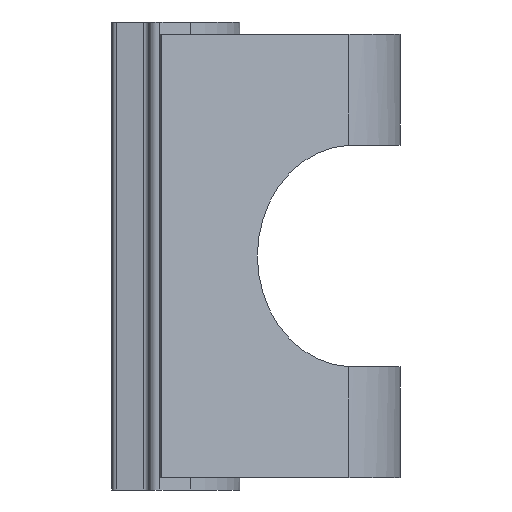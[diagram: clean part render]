
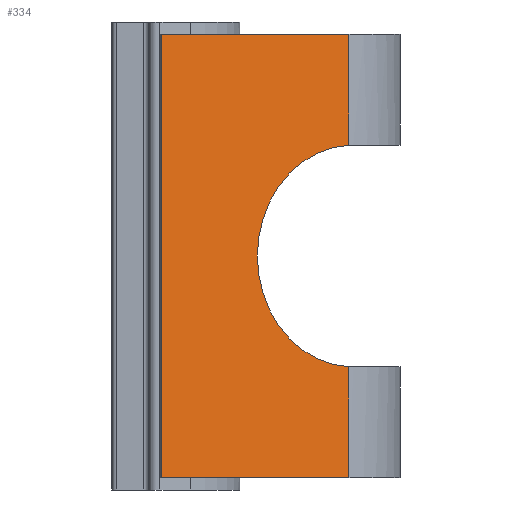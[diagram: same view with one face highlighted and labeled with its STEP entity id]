
A CAD part, left-side view. The second image highlights one B-rep face of the part: STEP entity #334.
In plain terms, the highlighted planar face has unit normal (-0.866, -0.5, 0).
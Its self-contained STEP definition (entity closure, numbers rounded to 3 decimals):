
#2 = DIRECTION ( 'NONE',  ( 0.866, 0.5, 0. ) ) ;
#24 = VERTEX_POINT ( 'NONE', #1583 ) ;
#61 = LINE ( 'NONE', #1104, #1341 ) ;
#90 = EDGE_CURVE ( 'NONE', #172, #1094, #61, .T. ) ;
#113 = EDGE_CURVE ( 'NONE', #1563, #172, #682, .T. ) ;
#146 = CARTESIAN_POINT ( 'NONE',  ( -2.682, -9.625, 18.5 ) ) ;
#155 = CARTESIAN_POINT ( 'NONE',  ( -7.085, -2., 18.5 ) ) ;
#172 = VERTEX_POINT ( 'NONE', #1116 ) ;
#228 = ORIENTED_EDGE ( 'NONE', *, *, #751, .T. ) ;
#244 = VECTOR ( 'NONE', #856, 1000. ) ;
#275 = DIRECTION ( 'NONE',  ( 0.5, -0.866, 0. ) ) ;
#277 = DIRECTION ( 'NONE',  ( -0.5, 0.866, 0. ) ) ;
#317 = AXIS2_PLACEMENT_3D ( 'NONE', #784, #2, #471 ) ;
#334 = ADVANCED_FACE ( 'NONE', ( #1436 ), #940, .T. ) ;
#345 = CARTESIAN_POINT ( 'NONE',  ( -7.085, -2., 18.5 ) ) ;
#352 = CARTESIAN_POINT ( 'NONE',  ( -2.682, -9.625, 5.005 ) ) ;
#381 = EDGE_CURVE ( 'NONE', #1094, #24, #686, .T. ) ;
#383 = CARTESIAN_POINT ( 'NONE',  ( -4.829, -5.906, 9.5 ) ) ;
#386 = EDGE_CURVE ( 'NONE', #24, #388, #1491, .T. ) ;
#388 = VERTEX_POINT ( 'NONE', #1596 ) ;
#393 = LINE ( 'NONE', #146, #512 ) ;
#417 = DIRECTION ( 'NONE',  ( 0., 0., 1. ) ) ;
#422 = AXIS2_PLACEMENT_3D ( 'NONE', #155, #573, #1056 ) ;
#435 = CARTESIAN_POINT ( 'NONE',  ( -7.085, -2., 18.5 ) ) ;
#466 = VECTOR ( 'NONE', #275, 1000. ) ;
#471 = DIRECTION ( 'NONE',  ( -0.5, 0.866, 0. ) ) ;
#512 = VECTOR ( 'NONE', #417, 1000. ) ;
#548 = ORIENTED_EDGE ( 'NONE', *, *, #113, .T. ) ;
#562 = ORIENTED_EDGE ( 'NONE', *, *, #381, .T. ) ;
#573 = DIRECTION ( 'NONE',  ( -0.866, -0.5, 0. ) ) ;
#616 = DIRECTION ( 'NONE',  ( -0.5, 0.866, 0. ) ) ;
#644 = EDGE_CURVE ( 'NONE', #1577, #1037, #393, .T. ) ;
#672 = CARTESIAN_POINT ( 'NONE',  ( -2.682, -9.625, 0.5 ) ) ;
#682 = CIRCLE ( 'NONE', #317, 4.5 ) ;
#686 = LINE ( 'NONE', #435, #1624 ) ;
#693 = ORIENTED_EDGE ( 'NONE', *, *, #1164, .T. ) ;
#732 = CIRCLE ( 'NONE', #1240, 4.5 ) ;
#749 = ORIENTED_EDGE ( 'NONE', *, *, #386, .T. ) ;
#751 = EDGE_CURVE ( 'NONE', #1037, #1563, #732, .T. ) ;
#784 = CARTESIAN_POINT ( 'NONE',  ( -2.579, -9.803, 9.5 ) ) ;
#856 = DIRECTION ( 'NONE',  ( 0., 0., -1. ) ) ;
#911 = ORIENTED_EDGE ( 'NONE', *, *, #644, .T. ) ;
#921 = DIRECTION ( 'NONE',  ( 0.866, 0.5, 0. ) ) ;
#940 = PLANE ( 'NONE',  #422 ) ;
#976 = DIRECTION ( 'NONE',  ( 0., 0., 1. ) ) ;
#1034 = LINE ( 'NONE', #1538, #466 ) ;
#1037 = VERTEX_POINT ( 'NONE', #352 ) ;
#1056 = DIRECTION ( 'NONE',  ( 0.5, -0.866, 0. ) ) ;
#1094 = VERTEX_POINT ( 'NONE', #1307 ) ;
#1104 = CARTESIAN_POINT ( 'NONE',  ( -2.682, -9.625, 18.5 ) ) ;
#1116 = CARTESIAN_POINT ( 'NONE',  ( -2.682, -9.625, 13.995 ) ) ;
#1129 = EDGE_LOOP ( 'NONE', ( #693, #911, #228, #548, #1616, #562, #749 ) ) ;
#1164 = EDGE_CURVE ( 'NONE', #388, #1577, #1034, .T. ) ;
#1240 = AXIS2_PLACEMENT_3D ( 'NONE', #1440, #921, #277 ) ;
#1307 = CARTESIAN_POINT ( 'NONE',  ( -2.682, -9.625, 18.5 ) ) ;
#1341 = VECTOR ( 'NONE', #976, 1000. ) ;
#1436 = FACE_OUTER_BOUND ( 'NONE', #1129, .T. ) ;
#1440 = CARTESIAN_POINT ( 'NONE',  ( -2.579, -9.803, 9.5 ) ) ;
#1491 = LINE ( 'NONE', #345, #244 ) ;
#1538 = CARTESIAN_POINT ( 'NONE',  ( -7.085, -2., 0.5 ) ) ;
#1563 = VERTEX_POINT ( 'NONE', #383 ) ;
#1577 = VERTEX_POINT ( 'NONE', #672 ) ;
#1583 = CARTESIAN_POINT ( 'NONE',  ( -7.085, -2., 18.5 ) ) ;
#1596 = CARTESIAN_POINT ( 'NONE',  ( -7.085, -2., 0.5 ) ) ;
#1616 = ORIENTED_EDGE ( 'NONE', *, *, #90, .T. ) ;
#1624 = VECTOR ( 'NONE', #616, 1000. ) ;
